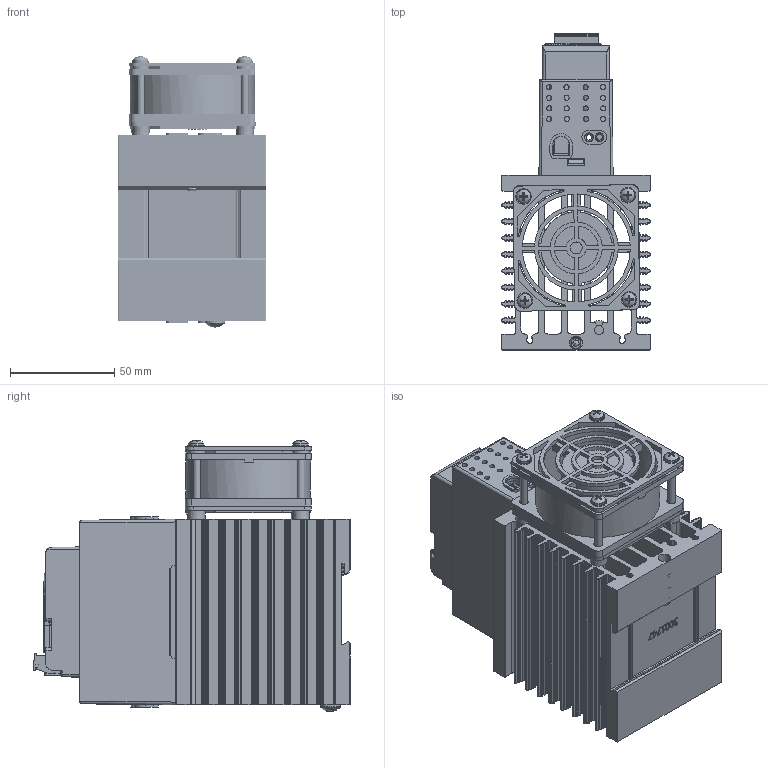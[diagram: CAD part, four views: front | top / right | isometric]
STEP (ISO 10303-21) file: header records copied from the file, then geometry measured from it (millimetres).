
FILE_DESCRIPTION(/* description */ (''),/* implementation_level */ '2;1');
FILE_NAME(/* name */ '1-phase Digital 65A.stp',/* time_stamp */ '2024-11-12T09:29:44-06:00',/* author */ ('ErikG'),/* organization */ (''),/* preprocessor_version */ 'ST-DEVELOPER v20',/* originating_system */ 'Autodesk Inventor 2025',/* authorisation */ '');
FILE_SCHEMA (('AUTOMOTIVE_DESIGN { 1 0 10303 214 3 1 1 }'));
Products named in the file (28): 3001631e_CAD_Blocks; 3001762; 1001592E; P6; fci 6 pin header OQ06120000J0G; fci 6 pin headerOQ06120000J0G half 1; fci 5 pin header OQ05120000J0G half 2; 0053035-0138-06; P4; P5; usb-c31-s-vt-cs4-bk-pp-t-r-model ADAMTECH; P2; 74990101210 (rev1); base; shielding; 3001759; 3001760; 3001755; 3001756; 3001747; 0060702-1032-0375; 0060783-0610-010.ipt; spring; 0060002-0632-1175; 62111-0006-0; 2R36_SQ_FAN_1R0 depth; 3001773; 3001772
Assembly tree (35 placements, depth 5):
  3001631e_CAD_Blocks
    3001762
    1001592E
      P6
        fci 6 pin header OQ06120000J0G
          fci 6 pin headerOQ06120000J0G half 1
          fci 5 pin header OQ05120000J0G half 2
          0053035-0138-06
      P4
        74990101210 (rev1)
          base
          shielding
      P5
        usb-c31-s-vt-cs4-bk-pp-t-r-model ADAMTECH
      P2
        74990101210 (rev1)
          base
          shielding
    3001759
    3001760  x2
    3001755
    3001756
    3001747
    0060702-1032-0375
    0060783-0610-010.ipt
    spring
    0060002-0632-1175  x4
    62111-0006-0  x4
    2R36_SQ_FAN_1R0 depth
    3001773
    3001772
Bounding box: 71.12 x 151.78 x 130.1 mm (x, y, z)
Volume: 307194.8 mm3; surface area: 248995.7 mm2
Topology: 30 solids, 124 shells, 7291 faces, 20074 edges, 13154 vertices
Faces by surface type: plane 5132, cylinder 1586, cone 296, bspline 163, torus 91, sphere 23
Full cylindrical faces by diameter (mm): 0.254 x1, 0.45 x2, 0.55 x2, 0.65 x2, 1 x2, 2.3 x12, 2.54 x2, 2.642 x3, 2.95 x6, 3.277 x2, 3.505 x4, 4.293 x8, 4.826 x1, 4.917 x1, 6 x1, 6.172 x1, 6.858 x4, 7.493 x8, 7.976 x1, 9.474 x1, 34.29 x1, 57.15 x1, 59.69 x1
Entity records: 215978 total; most frequent: CARTESIAN_POINT 53371, ORIENTED_EDGE 34320, DIRECTION 32050, EDGE_CURVE 17160, LINE 12860, VECTOR 12860, VERTEX_POINT 11262, AXIS2_PLACEMENT_3D 9595
